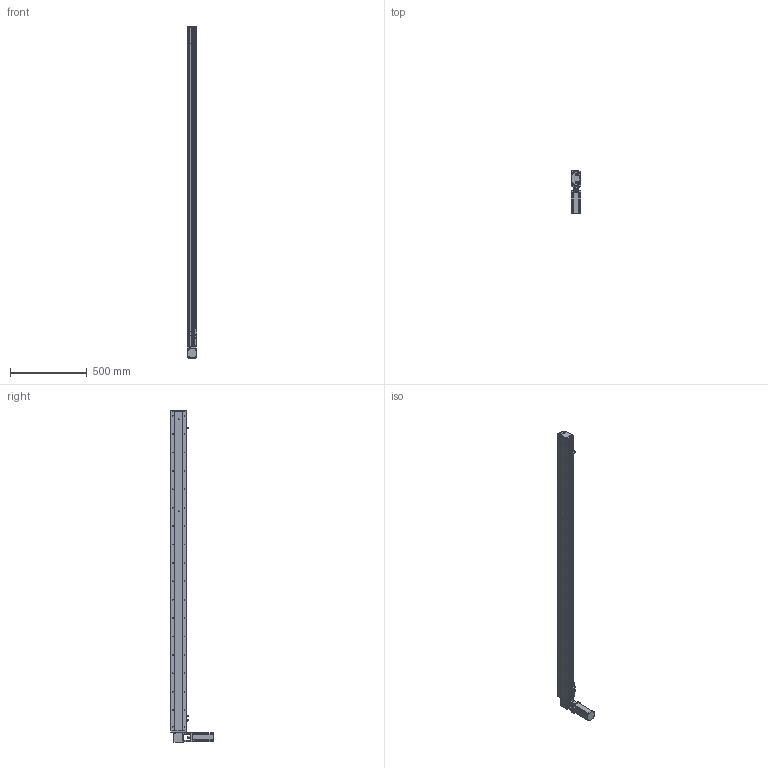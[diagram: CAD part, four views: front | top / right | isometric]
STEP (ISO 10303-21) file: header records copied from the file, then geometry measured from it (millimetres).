
FILE_DESCRIPTION (( 'STEP AP214' ), '1' );
FILE_NAME ('KSD100B-S1900-MLT-CM.STEP', '2019-10-26T06:07:05', ( '微软用户' ), ( '微软中国' ), 'SwSTEP 2.0', 'SolidWorks 2014', '' );
FILE_SCHEMA (( 'AUTOMOTIVE_DESIGN' ));
Length unit declared in the file: millimetre
Products named in the file (12): KSD100B-S1900-MLT-CM; 100宽安装板同步带带电机座400W,86; 100遵鎮湛假蚾啣1 ; 100宽防尘板1900行程-同步带; U倰嫖萇EEㄜSX672; 覜茼え100遵圉猾敕; 台达ECMA－C20604AS伺服电机; 100宽马达安装板同步带右; 100宽同步带安装板半封闭; 100宽马达安装板同步带; 100遵傷啣肮祭湍; 100宽底板半封闭同步带1900行程
Assembly tree (13 placements, depth 2):
  KSD100B-S1900-MLT-CM
    100宽底板半封闭同步带1900行程
    100遵傷啣肮祭湍
    100宽马达安装板同步带
    100宽同步带安装板半封闭
    100宽马达安装板同步带右
    台达ECMA－C20604AS伺服电机
    覜茼え100遵圉猾敕
    U倰嫖萇EEㄜSX672  x3
    100宽防尘板1900行程-同步带
    100遵鎮湛假蚾啣1 
    100宽安装板同步带带电机座400W,86
Bounding box: 61 x 275 x 2165 mm (x, y, z)
Volume: 4412817.7 mm3; surface area: 1498614 mm2
Topology: 14 solids, 14 shells, 1720 faces, 4885 edges, 3067 vertices
Faces by surface type: cylinder 914, plane 607, cone 199
Entity records: 62945 total; most frequent: CARTESIAN_POINT 13896, DIRECTION 8557, ORIENTED_EDGE 8278, EDGE_CURVE 4139, AXIS2_PLACEMENT_3D 3178, VERTEX_POINT 2691, VECTOR 2201, LINE 2201
